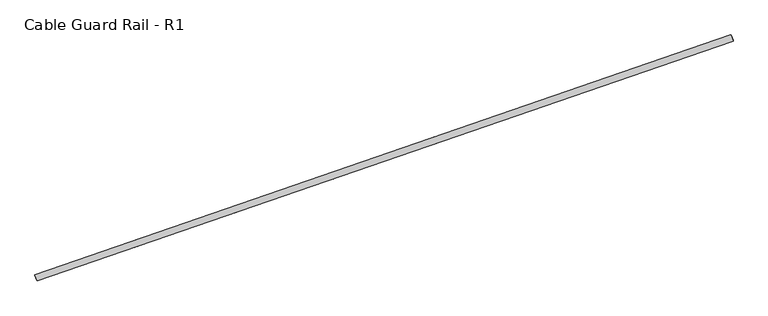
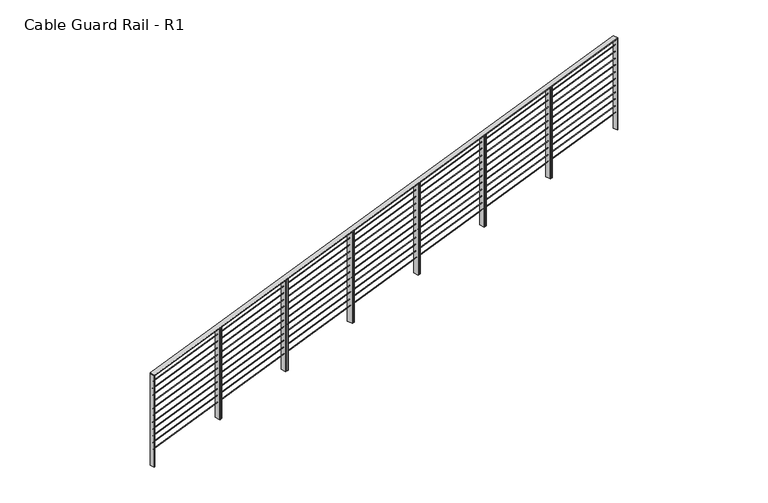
"""IFC4 building model written with IfcOpenShell, lengths in millimetres: railing geometry, Cable Guard Rail - R1."""

from ifc_helpers import new_model, si_unit, frame, origin, place, context, project, spatial, polyline, ellipse_curve, outline, extrude, faceted_brep, source, transform, mapped, element, save
from ifc_brep_helpers import plane_surface, cylinder_surface, advanced_brep


def cable_guard_rail_r1_54c82a32(model_context):
    return source(origin(), model_context, "Body", "SolidModel", [
        faceted_brep([(40066.1766594, 183350.735443, 294905.6845678), (40041.3016985, 183422.7609684, 294905.6845678), (40041.3016985, 183422.7609684, 294892.9660629), (40066.1766594, 183350.735443, 294892.9660629), (48239.9262686, 186173.6472003, 295372.6715289), (48239.9262686, 186173.6472003, 295359.953024), (48215.0513076, 186245.6727258, 295359.953024), (48215.0513076, 186245.6727258, 295372.6715289)], [[[0, 1, 2, 3]], [[4, 5, 6, 7]], [[1, 0, 4, 7]], [[2, 1, 7, 6]], [[3, 2, 6, 5]], [[0, 3, 5, 4]]]),
        advanced_brep(
        [(40052.7027222, 183389.7492692, 294791.3845678), (40054.7756357, 183383.7471421, 294791.3845678), (48226.4523314, 186212.6610266, 295258.3715289), (48228.5252448, 186206.6588995, 295258.3715289)],
        [
            (0, 1, ellipse_curve(frame((40053.7391789, 183386.7482057, 294791.3845678), z_axis=(-0.9452168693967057, -0.3264430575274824, 0.0), x_axis=(0.0, 0.0, -1.0)), 3.1796262, 3.175)),
            (1, 0, ellipse_curve(frame((40053.7391789, 183386.7482057, 294791.3845678), z_axis=(-0.9452168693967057, -0.3264430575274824, 0.0), x_axis=(0.0, 0.0, -1.0)), 3.1796262, 3.175)),
            (2, 3, ellipse_curve(frame((48227.4887881, 186209.659963, 295258.3715289), z_axis=(0.9452168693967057, 0.3264430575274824, 0.0), x_axis=(0.0, 0.0, -1.0)), 3.1796262, 3.175)),
            (3, 2, ellipse_curve(frame((48227.4887881, 186209.659963, 295258.3715289), z_axis=(0.9452168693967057, 0.3264430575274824, 0.0), x_axis=(0.0, 0.0, -1.0)), 3.1796262, 3.175)),
            (0, 2),
            (3, 1),
        ],
        [
            plane_surface(frame((40053.7391789, 183386.7482057, 294791.3845678), z_axis=(-0.9452168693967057, -0.3264430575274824, 0.0), x_axis=(0.3264430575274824, -0.9452168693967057, 0.0))),
            plane_surface(frame((48227.4887881, 186209.659963, 295258.3715289), z_axis=(0.9452168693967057, 0.3264430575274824, 0.0), x_axis=(0.3264430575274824, -0.9452168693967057, 0.0))),
            cylinder_surface(frame((40053.7391789, 183386.7482057, 294791.3845678), z_axis=(-0.9438416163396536, -0.3259680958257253, -0.053924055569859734), x_axis=(0.3264430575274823, -0.9452168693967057, 0.0)), 3.175),
        ],
        [
            (0, [[1, 2]]),
            (1, [[3, 4]]),
            (2, [[-1, 5, -4, 6]]),
            (2, [[-2, -6, -3, -5]]),
        ],
    ),
        advanced_brep(
        [(40052.7027222, 183389.7492692, 294689.7845678), (40054.7756357, 183383.7471421, 294689.7845678), (48226.4523314, 186212.6610266, 295156.7715289), (48228.5252448, 186206.6588995, 295156.7715289)],
        [
            (0, 1, ellipse_curve(frame((40053.7391789, 183386.7482057, 294689.7845678), z_axis=(-0.9452168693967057, -0.3264430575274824, 0.0), x_axis=(0.0, 0.0, -1.0)), 3.1796262, 3.175)),
            (1, 0, ellipse_curve(frame((40053.7391789, 183386.7482057, 294689.7845678), z_axis=(-0.9452168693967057, -0.3264430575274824, 0.0), x_axis=(0.0, 0.0, -1.0)), 3.1796262, 3.175)),
            (2, 3, ellipse_curve(frame((48227.4887881, 186209.659963, 295156.7715289), z_axis=(0.9452168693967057, 0.3264430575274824, 0.0), x_axis=(0.0, 0.0, -1.0)), 3.1796262, 3.175)),
            (3, 2, ellipse_curve(frame((48227.4887881, 186209.659963, 295156.7715289), z_axis=(0.9452168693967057, 0.3264430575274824, 0.0), x_axis=(0.0, 0.0, -1.0)), 3.1796262, 3.175)),
            (0, 2),
            (3, 1),
        ],
        [
            plane_surface(frame((40053.7391789, 183386.7482057, 294689.7845678), z_axis=(-0.9452168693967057, -0.3264430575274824, 0.0), x_axis=(0.3264430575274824, -0.9452168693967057, 0.0))),
            plane_surface(frame((48227.4887881, 186209.659963, 295156.7715289), z_axis=(0.9452168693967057, 0.3264430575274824, 0.0), x_axis=(0.3264430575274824, -0.9452168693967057, 0.0))),
            cylinder_surface(frame((40053.7391789, 183386.7482057, 294689.7845678), z_axis=(-0.9438416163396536, -0.3259680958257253, -0.053924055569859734), x_axis=(0.3264430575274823, -0.9452168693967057, 0.0)), 3.175),
        ],
        [
            (0, [[1, 2]]),
            (1, [[3, 4]]),
            (2, [[-1, 5, -4, 6]]),
            (2, [[-2, -6, -3, -5]]),
        ],
    ),
        advanced_brep(
        [(40052.7027222, 183389.7492692, 294588.1845678), (40054.7756357, 183383.7471421, 294588.1845678), (48226.4523314, 186212.6610266, 295055.1715289), (48228.5252448, 186206.6588995, 295055.1715289)],
        [
            (0, 1, ellipse_curve(frame((40053.7391789, 183386.7482057, 294588.1845678), z_axis=(-0.9452168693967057, -0.3264430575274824, 0.0), x_axis=(0.0, 0.0, -1.0)), 3.1796262, 3.175)),
            (1, 0, ellipse_curve(frame((40053.7391789, 183386.7482057, 294588.1845678), z_axis=(-0.9452168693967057, -0.3264430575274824, 0.0), x_axis=(0.0, 0.0, -1.0)), 3.1796262, 3.175)),
            (2, 3, ellipse_curve(frame((48227.4887881, 186209.659963, 295055.1715289), z_axis=(0.9452168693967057, 0.3264430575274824, 0.0), x_axis=(0.0, 0.0, -1.0)), 3.1796262, 3.175)),
            (3, 2, ellipse_curve(frame((48227.4887881, 186209.659963, 295055.1715289), z_axis=(0.9452168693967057, 0.3264430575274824, 0.0), x_axis=(0.0, 0.0, -1.0)), 3.1796262, 3.175)),
            (0, 2),
            (3, 1),
        ],
        [
            plane_surface(frame((40053.7391789, 183386.7482057, 294588.1845678), z_axis=(-0.9452168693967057, -0.3264430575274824, 0.0), x_axis=(0.3264430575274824, -0.9452168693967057, 0.0))),
            plane_surface(frame((48227.4887881, 186209.659963, 295055.1715289), z_axis=(0.9452168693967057, 0.3264430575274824, 0.0), x_axis=(0.3264430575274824, -0.9452168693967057, 0.0))),
            cylinder_surface(frame((40053.7391789, 183386.7482057, 294588.1845678), z_axis=(-0.9438416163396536, -0.3259680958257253, -0.053924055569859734), x_axis=(0.3264430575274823, -0.9452168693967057, 0.0)), 3.175),
        ],
        [
            (0, [[1, 2]]),
            (1, [[3, 4]]),
            (2, [[-1, 5, -4, 6]]),
            (2, [[-2, -6, -3, -5]]),
        ],
    ),
        advanced_brep(
        [(40052.7027222, 183389.7492692, 294486.5845678), (40054.7756357, 183383.7471421, 294486.5845678), (48226.4523314, 186212.6610266, 294953.5715289), (48228.5252448, 186206.6588995, 294953.5715289)],
        [
            (0, 1, ellipse_curve(frame((40053.7391789, 183386.7482057, 294486.5845678), z_axis=(-0.9452168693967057, -0.3264430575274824, 0.0), x_axis=(0.0, 0.0, -1.0)), 3.1796262, 3.175)),
            (1, 0, ellipse_curve(frame((40053.7391789, 183386.7482057, 294486.5845678), z_axis=(-0.9452168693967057, -0.3264430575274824, 0.0), x_axis=(0.0, 0.0, -1.0)), 3.1796262, 3.175)),
            (2, 3, ellipse_curve(frame((48227.4887881, 186209.659963, 294953.5715289), z_axis=(0.9452168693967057, 0.3264430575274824, 0.0), x_axis=(0.0, 0.0, -1.0)), 3.1796262, 3.175)),
            (3, 2, ellipse_curve(frame((48227.4887881, 186209.659963, 294953.5715289), z_axis=(0.9452168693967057, 0.3264430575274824, 0.0), x_axis=(0.0, 0.0, -1.0)), 3.1796262, 3.175)),
            (0, 2),
            (3, 1),
        ],
        [
            plane_surface(frame((40053.7391789, 183386.7482057, 294486.5845678), z_axis=(-0.9452168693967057, -0.3264430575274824, 0.0), x_axis=(0.3264430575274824, -0.9452168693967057, 0.0))),
            plane_surface(frame((48227.4887881, 186209.659963, 294953.5715289), z_axis=(0.9452168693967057, 0.3264430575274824, 0.0), x_axis=(0.3264430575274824, -0.9452168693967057, 0.0))),
            cylinder_surface(frame((40053.7391789, 183386.7482057, 294486.5845678), z_axis=(-0.9438416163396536, -0.3259680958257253, -0.053924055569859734), x_axis=(0.3264430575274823, -0.9452168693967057, 0.0)), 3.175),
        ],
        [
            (0, [[1, 2]]),
            (1, [[3, 4]]),
            (2, [[-1, 5, -4, 6]]),
            (2, [[-2, -6, -3, -5]]),
        ],
    ),
        advanced_brep(
        [(40052.7027222, 183389.7492692, 294384.9845678), (40054.7756357, 183383.7471421, 294384.9845678), (48226.4523314, 186212.6610266, 294851.9715289), (48228.5252448, 186206.6588995, 294851.9715289)],
        [
            (0, 1, ellipse_curve(frame((40053.7391789, 183386.7482057, 294384.9845678), z_axis=(-0.9452168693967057, -0.3264430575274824, 0.0), x_axis=(0.0, 0.0, -1.0)), 3.1796262, 3.175)),
            (1, 0, ellipse_curve(frame((40053.7391789, 183386.7482057, 294384.9845678), z_axis=(-0.9452168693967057, -0.3264430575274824, 0.0), x_axis=(0.0, 0.0, -1.0)), 3.1796262, 3.175)),
            (2, 3, ellipse_curve(frame((48227.4887881, 186209.659963, 294851.9715289), z_axis=(0.9452168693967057, 0.3264430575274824, 0.0), x_axis=(0.0, 0.0, -1.0)), 3.1796262, 3.175)),
            (3, 2, ellipse_curve(frame((48227.4887881, 186209.659963, 294851.9715289), z_axis=(0.9452168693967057, 0.3264430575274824, 0.0), x_axis=(0.0, 0.0, -1.0)), 3.1796262, 3.175)),
            (0, 2),
            (3, 1),
        ],
        [
            plane_surface(frame((40053.7391789, 183386.7482057, 294384.9845678), z_axis=(-0.9452168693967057, -0.3264430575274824, 0.0), x_axis=(0.3264430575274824, -0.9452168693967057, 0.0))),
            plane_surface(frame((48227.4887881, 186209.659963, 294851.9715289), z_axis=(0.9452168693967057, 0.3264430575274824, 0.0), x_axis=(0.3264430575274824, -0.9452168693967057, 0.0))),
            cylinder_surface(frame((40053.7391789, 183386.7482057, 294384.9845678), z_axis=(-0.9438416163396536, -0.3259680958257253, -0.053924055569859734), x_axis=(0.3264430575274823, -0.9452168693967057, 0.0)), 3.175),
        ],
        [
            (0, [[1, 2]]),
            (1, [[3, 4]]),
            (2, [[-1, 5, -4, 6]]),
            (2, [[-2, -6, -3, -5]]),
        ],
    ),
        advanced_brep(
        [(40052.7027222, 183389.7492692, 294283.3845678), (40054.7756357, 183383.7471421, 294283.3845678), (48226.4523314, 186212.6610266, 294750.3715289), (48228.5252448, 186206.6588995, 294750.3715289)],
        [
            (0, 1, ellipse_curve(frame((40053.7391789, 183386.7482057, 294283.3845678), z_axis=(-0.9452168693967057, -0.3264430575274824, 0.0), x_axis=(0.0, 0.0, -1.0)), 3.1796262, 3.175)),
            (1, 0, ellipse_curve(frame((40053.7391789, 183386.7482057, 294283.3845678), z_axis=(-0.9452168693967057, -0.3264430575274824, 0.0), x_axis=(0.0, 0.0, -1.0)), 3.1796262, 3.175)),
            (2, 3, ellipse_curve(frame((48227.4887881, 186209.659963, 294750.3715289), z_axis=(0.9452168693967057, 0.3264430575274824, 0.0), x_axis=(0.0, 0.0, -1.0)), 3.1796262, 3.175)),
            (3, 2, ellipse_curve(frame((48227.4887881, 186209.659963, 294750.3715289), z_axis=(0.9452168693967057, 0.3264430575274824, 0.0), x_axis=(0.0, 0.0, -1.0)), 3.1796262, 3.175)),
            (0, 2),
            (3, 1),
        ],
        [
            plane_surface(frame((40053.7391789, 183386.7482057, 294283.3845678), z_axis=(-0.9452168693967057, -0.3264430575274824, 0.0), x_axis=(0.3264430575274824, -0.9452168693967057, 0.0))),
            plane_surface(frame((48227.4887881, 186209.659963, 294750.3715289), z_axis=(0.9452168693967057, 0.3264430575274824, 0.0), x_axis=(0.3264430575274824, -0.9452168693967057, 0.0))),
            cylinder_surface(frame((40053.7391789, 183386.7482057, 294283.3845678), z_axis=(-0.9438416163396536, -0.3259680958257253, -0.053924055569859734), x_axis=(0.3264430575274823, -0.9452168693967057, 0.0)), 3.175),
        ],
        [
            (0, [[1, 2]]),
            (1, [[3, 4]]),
            (2, [[-1, 5, -4, 6]]),
            (2, [[-2, -6, -3, -5]]),
        ],
    ),
        advanced_brep(
        [(40052.7027222, 183389.7492692, 294181.7845678), (40054.7756357, 183383.7471421, 294181.7845678), (48226.4523314, 186212.6610266, 294648.7715289), (48228.5252448, 186206.6588995, 294648.7715289)],
        [
            (0, 1, ellipse_curve(frame((40053.7391789, 183386.7482057, 294181.7845678), z_axis=(-0.9452168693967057, -0.3264430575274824, 0.0), x_axis=(0.0, 0.0, -1.0)), 3.1796262, 3.175)),
            (1, 0, ellipse_curve(frame((40053.7391789, 183386.7482057, 294181.7845678), z_axis=(-0.9452168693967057, -0.3264430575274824, 0.0), x_axis=(0.0, 0.0, -1.0)), 3.1796262, 3.175)),
            (2, 3, ellipse_curve(frame((48227.4887881, 186209.659963, 294648.7715289), z_axis=(0.9452168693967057, 0.3264430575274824, 0.0), x_axis=(0.0, 0.0, -1.0)), 3.1796262, 3.175)),
            (3, 2, ellipse_curve(frame((48227.4887881, 186209.659963, 294648.7715289), z_axis=(0.9452168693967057, 0.3264430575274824, 0.0), x_axis=(0.0, 0.0, -1.0)), 3.1796262, 3.175)),
            (0, 2),
            (3, 1),
        ],
        [
            plane_surface(frame((40053.7391789, 183386.7482057, 294181.7845678), z_axis=(-0.9452168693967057, -0.3264430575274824, 0.0), x_axis=(0.3264430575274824, -0.9452168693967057, 0.0))),
            plane_surface(frame((48227.4887881, 186209.659963, 294648.7715289), z_axis=(0.9452168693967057, 0.3264430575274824, 0.0), x_axis=(0.3264430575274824, -0.9452168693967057, 0.0))),
            cylinder_surface(frame((40053.7391789, 183386.7482057, 294181.7845678), z_axis=(-0.9438416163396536, -0.3259680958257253, -0.053924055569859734), x_axis=(0.3264430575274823, -0.9452168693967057, 0.0)), 3.175),
        ],
        [
            (0, [[1, 2]]),
            (1, [[3, 4]]),
            (2, [[-1, 5, -4, 6]]),
            (2, [[-2, -6, -3, -5]]),
        ],
    ),
        advanced_brep(
        [(40052.7027222, 183389.7492692, 294080.1845678), (40054.7756357, 183383.7471421, 294080.1845678), (48226.4523314, 186212.6610266, 294547.1715289), (48228.5252448, 186206.6588995, 294547.1715289)],
        [
            (0, 1, ellipse_curve(frame((40053.7391789, 183386.7482057, 294080.1845678), z_axis=(-0.9452168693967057, -0.3264430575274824, 0.0), x_axis=(0.0, 0.0, -1.0)), 3.1796262, 3.175)),
            (1, 0, ellipse_curve(frame((40053.7391789, 183386.7482057, 294080.1845678), z_axis=(-0.9452168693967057, -0.3264430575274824, 0.0), x_axis=(0.0, 0.0, -1.0)), 3.1796262, 3.175)),
            (2, 3, ellipse_curve(frame((48227.4887881, 186209.659963, 294547.1715289), z_axis=(0.9452168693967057, 0.3264430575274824, 0.0), x_axis=(0.0, 0.0, -1.0)), 3.1796262, 3.175)),
            (3, 2, ellipse_curve(frame((48227.4887881, 186209.659963, 294547.1715289), z_axis=(0.9452168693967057, 0.3264430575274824, 0.0), x_axis=(0.0, 0.0, -1.0)), 3.1796262, 3.175)),
            (0, 2),
            (3, 1),
        ],
        [
            plane_surface(frame((40053.7391789, 183386.7482057, 294080.1845678), z_axis=(-0.9452168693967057, -0.3264430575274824, 0.0), x_axis=(0.3264430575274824, -0.9452168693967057, 0.0))),
            plane_surface(frame((48227.4887881, 186209.659963, 294547.1715289), z_axis=(0.9452168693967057, 0.3264430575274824, 0.0), x_axis=(0.3264430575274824, -0.9452168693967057, 0.0))),
            cylinder_surface(frame((40053.7391789, 183386.7482057, 294080.1845678), z_axis=(-0.9438416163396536, -0.3259680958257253, -0.053924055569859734), x_axis=(0.3264430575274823, -0.9452168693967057, 0.0)), 3.175),
        ],
        [
            (0, [[1, 2]]),
            (1, [[3, 4]]),
            (2, [[-1, 5, -4, 6]]),
            (2, [[-2, -6, -3, -5]]),
        ],
    ),
        advanced_brep(
        [(40052.7027222, 183389.7492692, 293978.5845678), (40054.7756357, 183383.7471421, 293978.5845678), (48226.4523314, 186212.6610266, 294445.5715289), (48228.5252448, 186206.6588995, 294445.5715289)],
        [
            (0, 1, ellipse_curve(frame((40053.7391789, 183386.7482057, 293978.5845678), z_axis=(-0.9452168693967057, -0.3264430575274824, 0.0), x_axis=(0.0, 0.0, -1.0)), 3.1796262, 3.175)),
            (1, 0, ellipse_curve(frame((40053.7391789, 183386.7482057, 293978.5845678), z_axis=(-0.9452168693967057, -0.3264430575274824, 0.0), x_axis=(0.0, 0.0, -1.0)), 3.1796262, 3.175)),
            (2, 3, ellipse_curve(frame((48227.4887881, 186209.659963, 294445.5715289), z_axis=(0.9452168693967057, 0.3264430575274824, 0.0), x_axis=(0.0, 0.0, -1.0)), 3.1796262, 3.175)),
            (3, 2, ellipse_curve(frame((48227.4887881, 186209.659963, 294445.5715289), z_axis=(0.9452168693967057, 0.3264430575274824, 0.0), x_axis=(0.0, 0.0, -1.0)), 3.1796262, 3.175)),
            (0, 2),
            (3, 1),
        ],
        [
            plane_surface(frame((40053.7391789, 183386.7482057, 293978.5845678), z_axis=(-0.9452168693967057, -0.3264430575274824, 0.0), x_axis=(0.3264430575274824, -0.9452168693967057, 0.0))),
            plane_surface(frame((48227.4887881, 186209.659963, 294445.5715289), z_axis=(0.9452168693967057, 0.3264430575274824, 0.0), x_axis=(0.3264430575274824, -0.9452168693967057, 0.0))),
            cylinder_surface(frame((40053.7391789, 183386.7482057, 293978.5845678), z_axis=(-0.9438416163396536, -0.3259680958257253, -0.053924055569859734), x_axis=(0.3264430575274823, -0.9452168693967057, 0.0)), 3.175),
        ],
        [
            (0, [[1, 2]]),
            (1, [[3, 4]]),
            (2, [[-1, 5, -4, 6]]),
            (2, [[-2, -6, -3, -5]]),
        ],
    ),
        advanced_brep(
        [(40052.7027222, 183389.7492692, 293876.9845678), (40054.7756357, 183383.7471421, 293876.9845678), (48226.4523314, 186212.6610266, 294343.9715289), (48228.5252448, 186206.6588995, 294343.9715289)],
        [
            (0, 1, ellipse_curve(frame((40053.7391789, 183386.7482057, 293876.9845678), z_axis=(-0.9452168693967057, -0.3264430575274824, 0.0), x_axis=(0.0, 0.0, -1.0)), 3.1796262, 3.175)),
            (1, 0, ellipse_curve(frame((40053.7391789, 183386.7482057, 293876.9845678), z_axis=(-0.9452168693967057, -0.3264430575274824, 0.0), x_axis=(0.0, 0.0, -1.0)), 3.1796262, 3.175)),
            (2, 3, ellipse_curve(frame((48227.4887881, 186209.659963, 294343.9715289), z_axis=(0.9452168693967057, 0.3264430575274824, 0.0), x_axis=(0.0, 0.0, -1.0)), 3.1796262, 3.175)),
            (3, 2, ellipse_curve(frame((48227.4887881, 186209.659963, 294343.9715289), z_axis=(0.9452168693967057, 0.3264430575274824, 0.0), x_axis=(0.0, 0.0, -1.0)), 3.1796262, 3.175)),
            (0, 2),
            (3, 1),
        ],
        [
            plane_surface(frame((40053.7391789, 183386.7482057, 293876.9845678), z_axis=(-0.9452168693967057, -0.3264430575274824, 0.0), x_axis=(0.3264430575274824, -0.9452168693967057, 0.0))),
            plane_surface(frame((48227.4887881, 186209.659963, 294343.9715289), z_axis=(0.9452168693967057, 0.3264430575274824, 0.0), x_axis=(0.3264430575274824, -0.9452168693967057, 0.0))),
            cylinder_surface(frame((40053.7391789, 183386.7482057, 293876.9845678), z_axis=(-0.9438416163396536, -0.3259680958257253, -0.053924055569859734), x_axis=(0.3264430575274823, -0.9452168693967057, 0.0)), 3.175),
        ],
        [
            (0, [[1, 2]]),
            (1, [[3, 4]]),
            (2, [[-1, 5, -4, 6]]),
            (2, [[-2, -6, -3, -5]]),
        ],
    ),
        advanced_brep(
        [(40052.7027222, 183389.7492692, 293775.3845678), (40054.7756357, 183383.7471421, 293775.3845678), (48226.4523314, 186212.6610266, 294242.3715289), (48228.5252448, 186206.6588995, 294242.3715289)],
        [
            (0, 1, ellipse_curve(frame((40053.7391789, 183386.7482057, 293775.3845678), z_axis=(-0.9452168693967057, -0.3264430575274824, 0.0), x_axis=(0.0, 0.0, -1.0)), 3.1796262, 3.175)),
            (1, 0, ellipse_curve(frame((40053.7391789, 183386.7482057, 293775.3845678), z_axis=(-0.9452168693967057, -0.3264430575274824, 0.0), x_axis=(0.0, 0.0, -1.0)), 3.1796262, 3.175)),
            (2, 3, ellipse_curve(frame((48227.4887881, 186209.659963, 294242.3715289), z_axis=(0.9452168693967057, 0.3264430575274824, 0.0), x_axis=(0.0, 0.0, -1.0)), 3.1796262, 3.175)),
            (3, 2, ellipse_curve(frame((48227.4887881, 186209.659963, 294242.3715289), z_axis=(0.9452168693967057, 0.3264430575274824, 0.0), x_axis=(0.0, 0.0, -1.0)), 3.1796262, 3.175)),
            (0, 2),
            (3, 1),
        ],
        [
            plane_surface(frame((40053.7391789, 183386.7482057, 293775.3845678), z_axis=(-0.9452168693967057, -0.3264430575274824, 0.0), x_axis=(0.3264430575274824, -0.9452168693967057, 0.0))),
            plane_surface(frame((48227.4887881, 186209.659963, 294242.3715289), z_axis=(0.9452168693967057, 0.3264430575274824, 0.0), x_axis=(0.3264430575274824, -0.9452168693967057, 0.0))),
            cylinder_surface(frame((40053.7391789, 183386.7482057, 293775.3845678), z_axis=(-0.9438416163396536, -0.3259680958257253, -0.053924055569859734), x_axis=(0.3264430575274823, -0.9452168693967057, 0.0)), 3.175),
        ],
        [
            (0, [[1, 2]]),
            (1, [[3, 4]]),
            (2, [[-1, 5, -4, 6]]),
            (2, [[-2, -6, -3, -5]]),
        ],
    ),
        extrude(outline(polyline([(47026.3653471, 185835.1444206), (47035.3685377, 185838.2537907), (47060.2434987, 185766.2282653), (47051.240308, 185763.1188952), (47026.3653471, 185835.1444206)])), frame((0.0, 0.0, 293928.0091059), z_axis=(0.0, 0.0, 1.0), x_axis=(1.0, 0.0, 0.0)), (0.0, 0.0, 1.0), 1365.25),
        extrude(outline(polyline([(47053.3749191, 185844.472531), (47062.3325169, 185847.566155), (47087.2074779, 185775.5406296), (47078.2498801, 185772.4470055), (47053.3749191, 185844.472531)])), frame((0.0, 0.0, 293928.0091059), z_axis=(0.0, 0.0, 1.0), x_axis=(1.0, 0.0, 0.0)), (0.0, 0.0, 1.0), 1365.25),
        extrude(outline(polyline([(45858.6868315, 185431.8713124), (45867.6900222, 185434.9806825), (45892.5649831, 185362.9551571), (45883.5617925, 185359.845787), (45858.6868315, 185431.8713124)])), frame((0.0, 0.0, 293861.2966829), z_axis=(0.0, 0.0, 1.0), x_axis=(1.0, 0.0, 0.0)), (0.0, 0.0, 1.0), 1365.25),
        extrude(outline(polyline([(45885.6964035, 185441.1994228), (45894.6540013, 185444.2930468), (45919.5289623, 185372.2675214), (45910.5713645, 185369.1738973), (45885.6964035, 185441.1994228)])), frame((0.0, 0.0, 293861.2966829), z_axis=(0.0, 0.0, 1.0), x_axis=(1.0, 0.0, 0.0)), (0.0, 0.0, 1.0), 1365.25),
        extrude(outline(polyline([(44691.0083159, 185028.5982042), (44700.0115066, 185031.7075744), (44724.8864675, 184959.6820489), (44715.8832769, 184956.5726788), (44691.0083159, 185028.5982042)])), frame((0.0, 0.0, 293794.5842599), z_axis=(0.0, 0.0, 1.0), x_axis=(1.0, 0.0, 0.0)), (0.0, 0.0, 1.0), 1365.25),
        extrude(outline(polyline([(44718.0178879, 185037.9263146), (44726.9754857, 185041.0199386), (44751.8504467, 184968.9944132), (44742.8928489, 184965.9007891), (44718.0178879, 185037.9263146)])), frame((0.0, 0.0, 293794.5842599), z_axis=(0.0, 0.0, 1.0), x_axis=(1.0, 0.0, 0.0)), (0.0, 0.0, 1.0), 1365.25),
        extrude(outline(polyline([(43523.3298003, 184625.325096), (43532.332991, 184628.4344662), (43557.207952, 184556.4089407), (43548.2047613, 184553.2995706), (43523.3298003, 184625.325096)])), frame((0.0, 0.0, 293727.8718369), z_axis=(0.0, 0.0, 1.0), x_axis=(1.0, 0.0, 0.0)), (0.0, 0.0, 1.0), 1365.25),
        extrude(outline(polyline([(43550.3393723, 184634.6532064), (43559.2969701, 184637.7468304), (43584.1719311, 184565.721305), (43575.2143333, 184562.627681), (43550.3393723, 184634.6532064)])), frame((0.0, 0.0, 293727.8718369), z_axis=(0.0, 0.0, 1.0), x_axis=(1.0, 0.0, 0.0)), (0.0, 0.0, 1.0), 1365.25),
        extrude(outline(polyline([(42355.6512847, 184222.0519878), (42364.6544754, 184225.161358), (42389.5294364, 184153.1358325), (42380.5262457, 184150.0264624), (42355.6512847, 184222.0519878)])), frame((0.0, 0.0, 293661.1594139), z_axis=(0.0, 0.0, 1.0), x_axis=(1.0, 0.0, 0.0)), (0.0, 0.0, 1.0), 1365.25),
        extrude(outline(polyline([(42382.6608567, 184231.3800982), (42391.6184545, 184234.4737222), (42416.4934155, 184162.4481968), (42407.5358177, 184159.3545728), (42382.6608567, 184231.3800982)])), frame((0.0, 0.0, 293661.1594139), z_axis=(0.0, 0.0, 1.0), x_axis=(1.0, 0.0, 0.0)), (0.0, 0.0, 1.0), 1365.25),
        extrude(outline(polyline([(41187.9727691, 183818.7788797), (41196.9759598, 183821.8882498), (41221.8509208, 183749.8627243), (41212.8477301, 183746.7533542), (41187.9727691, 183818.7788797)])), frame((0.0, 0.0, 293594.4469909), z_axis=(0.0, 0.0, 1.0), x_axis=(1.0, 0.0, 0.0)), (0.0, 0.0, 1.0), 1365.25),
        extrude(outline(polyline([(41214.9823412, 183828.10699), (41223.9399389, 183831.200614), (41248.8148999, 183759.1750886), (41239.8573021, 183756.0814646), (41214.9823412, 183828.10699)])), frame((0.0, 0.0, 293594.4469909), z_axis=(0.0, 0.0, 1.0), x_axis=(1.0, 0.0, 0.0)), (0.0, 0.0, 1.0), 1365.25),
        extrude(outline(polyline([(48214.1231574, 186238.6341419), (48220.1252845, 186240.7070553), (48240.8544187, 186180.6857841), (48234.8522916, 186178.6128707), (48214.1231574, 186238.6341419)])), frame((0.0, 0.0, 293994.7215289), z_axis=(0.0, 0.0, 1.0), x_axis=(1.0, 0.0, 0.0)), (0.0, 0.0, 1.0), 1365.25),
        extrude(outline(polyline([(40040.3735483, 183415.7223846), (40046.3756754, 183417.795298), (40067.1048096, 183357.7740268), (40061.1026825, 183355.7011134), (40040.3735483, 183415.7223846)])), frame((0.0, 0.0, 293527.7345678), z_axis=(0.0, 0.0, 1.0), x_axis=(1.0, 0.0, 0.0)), (0.0, 0.0, 1.0), 1365.25),
    ])


if __name__ == "__main__":
    model = new_model("IFC4")
    model_context = context("Model", 3, world=origin())
    ifc_project = project(units=[si_unit("LENGTHUNIT", "METRE", prefix="MILLI")], contexts=[model_context])
    site = spatial("IfcSite", under=ifc_project)
    building = spatial("IfcBuilding", under=site)
    placement = place(None, origin())
    cable_guard_rail_r1_shape = cable_guard_rail_r1_54c82a32(model_context)
    element("IfcRailing", 1, ObjectType="Cable Guard Rail - R1", at=placement, inside=building, context=model_context, shape_type="MappedRepresentation", body=[
        mapped(cable_guard_rail_r1_shape, transform((0.0, 0.0, 0.0), x_axis=(1.0, 0.0, 0.0), y_axis=(0.0, 1.0, 0.0), z_axis=(0.0, 0.0, 1.0))),
    ])
    save(model, "model.ifc")
